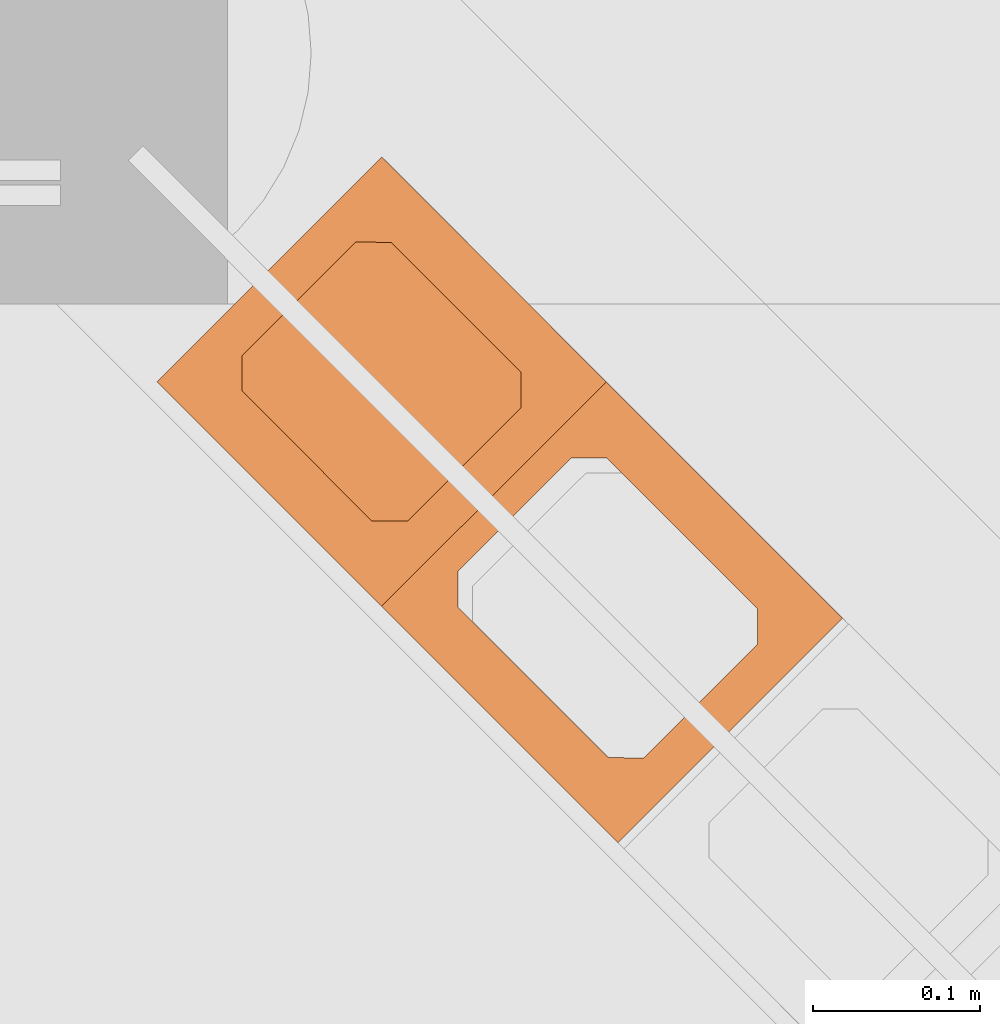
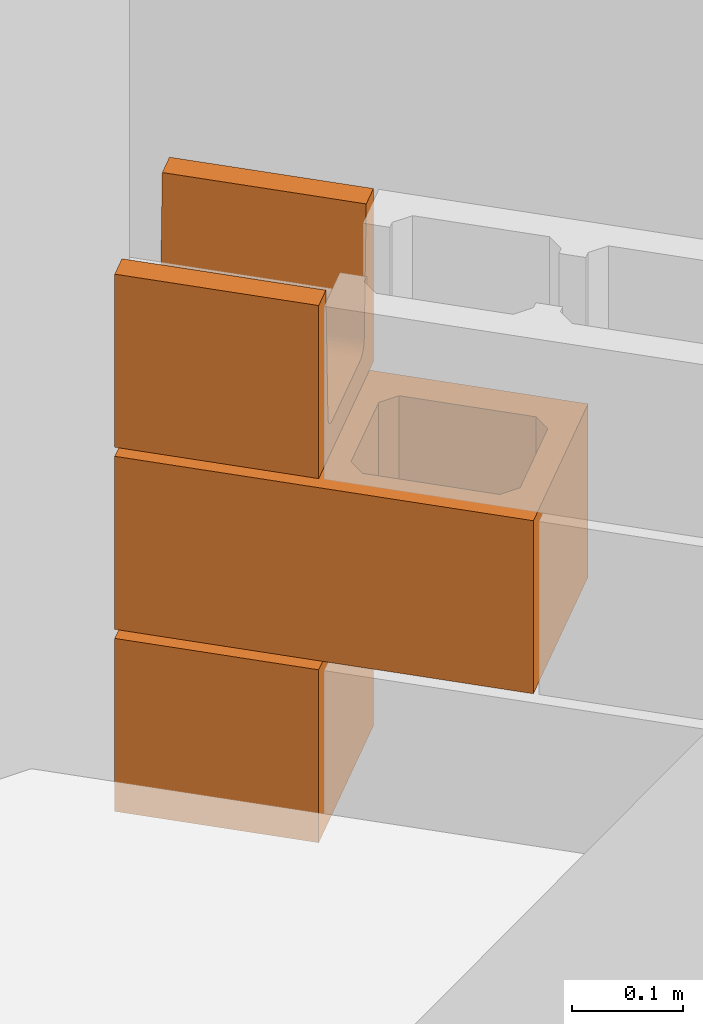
# One storey, part 4 of 4: 3 proxies.
"""IFC4 building model written with IfcOpenShell, lengths in centimetres."""

from ifc_helpers import new_model, entity, si_unit, converted_unit, derived_unit, direction, frame, origin, place, context, subcontext, project, spatial, line, arc, indexed_curve, outline, extrude, source, transform, mapped, material, type_object, type_shapes, element, save


model = new_model("IFC4")

# Units and contexts
model_context = context("Model", 3, precision=0.001, world=origin(), true_north=direction((6.123233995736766e-17, 1.0)))
body_context = subcontext(model_context, "Body", "Model", "MODEL_VIEW")
ifc_project = project(units=[si_unit("LENGTHUNIT", "METRE", prefix="CENTI"), si_unit("AREAUNIT", "SQUARE_METRE"), converted_unit("PLANEANGLEUNIT", "DEGREE", entity("IfcPlaneAngleMeasure", 0.017453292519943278), si_unit("PLANEANGLEUNIT", "RADIAN"), dimensions=[0, 0, 0, 0, 0, 0, 0]), si_unit("VOLUMEUNIT", "CUBIC_METRE"), derived_unit("THERMALTRANSMITTANCEUNIT", [(si_unit("MASSUNIT", "GRAM", prefix="KILO"), 1), (si_unit("THERMODYNAMICTEMPERATUREUNIT", "KELVIN"), -1), (si_unit("TIMEUNIT", "SECOND"), -3)])], contexts=[model_context])

# Site, building, storey
site_placement = place(None, origin())
site = spatial("IfcSite", under=ifc_project, at=site_placement, Name="Default", CompositionType="ELEMENT")
building_placement = place(site_placement, origin())
building = spatial("IfcBuilding", under=site, at=building_placement, Name="CONTENÇÃO DE ARQUIBANCADA - GINÁSIO PADRÃO", CompositionType="ELEMENT")
storey_placement = place(building_placement, origin())
storey = spatial("IfcBuildingStorey", under=building, at=storey_placement, Name="Nível 1", CompositionType="ELEMENT", Elevation=0.0)

# Proxies
ifc_material = material(Name="Concreto, aerado", Category="Concreto")
building_element_proxy_type_1 = type_object("IfcBuildingElementProxyType", Name="Bloco de Concreto - Inteiro:Família 20 x 40 - Classe A", PredefinedType="NOTDEFINED", material=ifc_material)
shared_shape_1 = source(origin(), body_context, "Body", "SweptSolid", [
    extrude(outline(indexed_curve([(-9.500000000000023, -19.499999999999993), (9.500000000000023, -19.499999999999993), (9.500000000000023, 19.499999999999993), (-9.500000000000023, 19.499999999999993), (-9.500000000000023, -19.499999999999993)], self_intersect=False), holes=[indexed_curve([(-6.300000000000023, 2.750000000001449), (-6.300000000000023, 15.499999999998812), (-4.799999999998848, 16.999999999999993), (4.799999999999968, 16.999999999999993), (6.300000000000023, 15.499999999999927), (6.300000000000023, 2.7500000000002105), (4.800000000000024, 1.2500000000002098), (-4.799999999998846, 1.2500000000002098), (-6.300000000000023, 2.750000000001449)], self_intersect=False), indexed_curve([(-6.300000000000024, -15.50000000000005), (-6.300000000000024, -2.7499999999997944), (-4.800000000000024, -1.2499999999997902), (4.800000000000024, -1.2499999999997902), (6.300000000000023, -2.749999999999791), (6.300000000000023, -15.50000000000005), (4.800000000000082, -16.999999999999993), (-4.799999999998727, -16.999999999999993), (-6.300000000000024, -15.50000000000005)], self_intersect=False)]), frame((0.0, 0.0, 0.0), z_axis=(0.0, 0.0, 1.0), x_axis=(0.0, 1.0, 0.0)), (0.0, 0.0, 1.0), 19.0),
])
type_shapes(building_element_proxy_type_1, [shared_shape_1])
proxy_1_placement = place(storey_placement, frame((580.740037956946, 222.34882959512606, 41.0), z_axis=(0.0, 0.0, 1.0), x_axis=(-0.706786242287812, 0.7074271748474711, 0.0)))
element("IfcBuildingElementProxy", 1, at=proxy_1_placement, inside=storey, type_object=building_element_proxy_type_1, material=ifc_material, Name="Bloco de Concreto - Inteiro:Família 20 x 40 - Classe A", ObjectType="Bloco de Concreto - Inteiro:Família 20 x 40 - Classe A", PredefinedType="NOTDEFINED", context=body_context, shape_type="MappedRepresentation", body=[
    mapped(shared_shape_1, transform((0.0, 0.0, 0.0), scale=1.0)),
])
building_element_proxy_type_2 = type_object("IfcBuildingElementProxyType", Name="Bloco de Concreto - Meio:Família 20 x 40 - Classe A", PredefinedType="NOTDEFINED", material=ifc_material)
shared_shape_2 = source(origin(), body_context, "Body", "SweptSolid", [
    extrude(outline(indexed_curve([(-9.500000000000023, -9.499999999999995), (9.500000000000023, -9.499999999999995), (9.500000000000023, 9.499999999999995), (-9.500000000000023, 9.499999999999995), (-9.500000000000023, -9.499999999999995)], self_intersect=False), holes=[indexed_curve([(-6.300000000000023, -5.499999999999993), (-6.300000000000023, 5.4999999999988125), (-4.799999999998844, 6.999999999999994), (4.799999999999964, 6.999999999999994), (6.300000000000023, 5.4999999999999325), (6.300000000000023, -5.499999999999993), (4.800000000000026, -6.999999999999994), (-4.799999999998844, -6.999999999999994), (-6.300000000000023, -5.499999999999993)], self_intersect=False)]), frame((0.0, 0.0, 0.0), z_axis=(0.0, 0.0, 1.0), x_axis=(0.0, 1.0, 0.0)), (0.0, 0.0, 1.0), 19.0),
])
type_shapes(building_element_proxy_type_2, [shared_shape_2])
proxy_2_placement = place(storey_placement, frame((573.6721755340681, 229.4231013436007, 21.0), z_axis=(0.0, 0.0, 1.0), x_axis=(0.7067862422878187, -0.7074271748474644, 0.0)))
element("IfcBuildingElementProxy", 2, at=proxy_2_placement, inside=storey, type_object=building_element_proxy_type_2, material=ifc_material, Name="Bloco de Concreto - Meio:Família 20 x 40 - Classe A", ObjectType="Bloco de Concreto - Meio:Família 20 x 40 - Classe A", PredefinedType="NOTDEFINED", context=body_context, shape_type="MappedRepresentation", body=[
    mapped(shared_shape_2, transform((0.0, 0.0, 0.0), scale=1.0)),
])
building_element_proxy_type_3 = type_object("IfcBuildingElementProxyType", Name="Bloco de Concreto - Meia Canaleta:Família 20 x 40 - Classe A", PredefinedType="NOTDEFINED", material=ifc_material)
shared_shape_3 = source(origin(), body_context, "Body", "SweptSolid", [
    extrude(outline(indexed_curve([(-9.498255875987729, -9.161189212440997), (9.50174412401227, -9.161189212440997), (9.50174412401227, 9.838810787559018), (7.0017441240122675, 9.838810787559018), (6.30174412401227, -4.546522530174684), (5.887397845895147, -5.546842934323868), (4.887077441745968, -5.961189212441), (-4.9010304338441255, -5.961189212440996), (-5.889018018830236, -5.551951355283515), (-6.29825587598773, -4.563963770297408), (-6.99825587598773, 9.838810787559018), (-9.498255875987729, 9.838810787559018)], segments=[line(1, 2, 3, 4, 5), arc(5, 6, 7), line(7, 8), arc(8, 9, 10), line(10, 11, 12, 1)], self_intersect=False)), frame((-9.5, -0.0017441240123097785, 9.161189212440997), z_axis=(1.0, 0.0, 0.0), x_axis=(0.0, 1.0, 0.0)), (0.0, 0.0, 1.0), 18.999999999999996),
])
type_shapes(building_element_proxy_type_3, [shared_shape_3])
proxy_3_placement = place(storey_placement, frame((573.672175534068, 229.4231013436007, 61.0), z_axis=(0.0, 0.0, 1.0), x_axis=(0.7067862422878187, -0.7074271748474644, 0.0)))
element("IfcBuildingElementProxy", 3, at=proxy_3_placement, inside=storey, type_object=building_element_proxy_type_3, material=ifc_material, Name="Bloco de Concreto - Meia Canaleta:Família 20 x 40 - Classe A", ObjectType="Bloco de Concreto - Meia Canaleta:Família 20 x 40 - Classe A", PredefinedType="NOTDEFINED", context=body_context, shape_type="MappedRepresentation", body=[
    mapped(shared_shape_3, transform((0.0, 0.0, 0.0), scale=1.0)),
])

save(model, "model.ifc")
